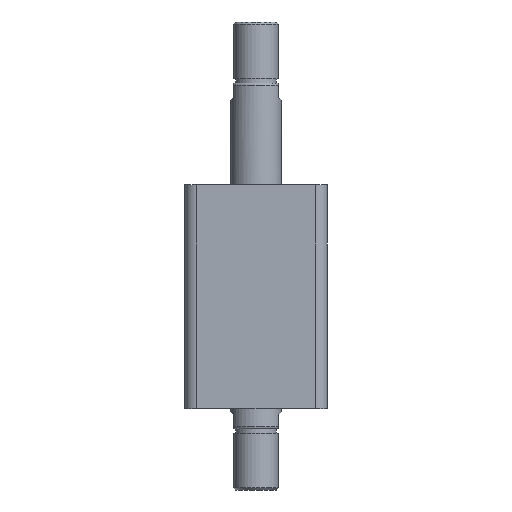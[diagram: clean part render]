
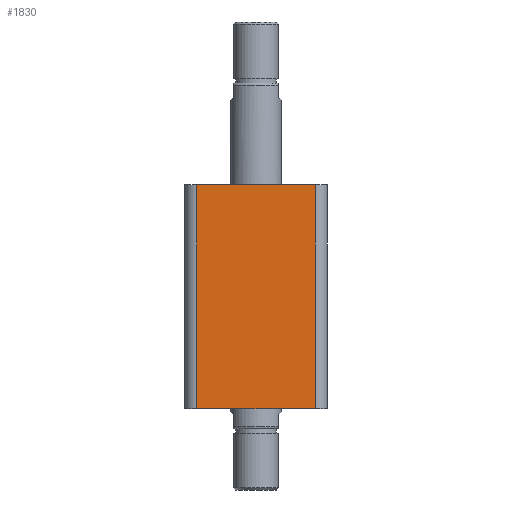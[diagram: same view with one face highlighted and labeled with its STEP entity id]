
A CAD part, front view. The second image highlights one B-rep face of the part: STEP entity #1830.
In plain terms, the highlighted planar face has unit normal (0, -1, 0).
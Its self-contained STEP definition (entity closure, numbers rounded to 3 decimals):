
#38 = CARTESIAN_POINT ( 'NONE',  ( 29., -35., 0. ) ) ;
#47 = CARTESIAN_POINT ( 'NONE',  ( -29., -35., 0. ) ) ;
#256 = CARTESIAN_POINT ( 'NONE',  ( -29., -35., 110. ) ) ;
#315 = VERTEX_POINT ( 'NONE', #256 ) ;
#589 = ORIENTED_EDGE ( 'NONE', *, *, #1423, .T. ) ;
#756 = LINE ( 'NONE', #3244, #761 ) ;
#758 = LINE ( 'NONE', #3246, #763 ) ;
#760 = LINE ( 'NONE', #3251, #765 ) ;
#761 = VECTOR ( 'NONE', #3248, 1000. ) ;
#763 = VECTOR ( 'NONE', #3250, 1000. ) ;
#764 = LINE ( 'NONE', #3252, #767 ) ;
#765 = VECTOR ( 'NONE', #3249, 1000. ) ;
#767 = VECTOR ( 'NONE', #3253, 1000. ) ;
#1006 = AXIS2_PLACEMENT_3D ( 'NONE', #2312, #2316, #2317 ) ;
#1221 = VERTEX_POINT ( 'NONE', #38 ) ;
#1227 = VERTEX_POINT ( 'NONE', #47 ) ;
#1421 = EDGE_CURVE ( 'NONE', #315, #3465, #756, .T. ) ;
#1423 = EDGE_CURVE ( 'NONE', #315, #1227, #758, .T. ) ;
#1426 = EDGE_CURVE ( 'NONE', #1227, #1221, #760, .T. ) ;
#1428 = EDGE_CURVE ( 'NONE', #1221, #3465, #764, .T. ) ;
#1645 = EDGE_LOOP ( 'NONE', ( #1798, #589, #1752, #1791 ) ) ;
#1752 = ORIENTED_EDGE ( 'NONE', *, *, #1426, .T. ) ;
#1791 = ORIENTED_EDGE ( 'NONE', *, *, #1428, .T. ) ;
#1798 = ORIENTED_EDGE ( 'NONE', *, *, #1421, .F. ) ;
#1830 = ADVANCED_FACE ( 'NONE', ( #2499 ), #2314, .F. ) ;
#2312 = CARTESIAN_POINT ( 'NONE',  ( -35., -35., 110. ) ) ;
#2314 = PLANE ( 'NONE',  #1006 ) ;
#2316 = DIRECTION ( 'NONE',  ( 0., 1., 0. ) ) ;
#2317 = DIRECTION ( 'NONE',  ( 0., 0., 1. ) ) ;
#2499 = FACE_OUTER_BOUND ( 'NONE', #1645, .T. ) ;
#2935 = CARTESIAN_POINT ( 'NONE',  ( 29., -35., 110. ) ) ;
#3244 = CARTESIAN_POINT ( 'NONE',  ( -35., -35., 110. ) ) ;
#3246 = CARTESIAN_POINT ( 'NONE',  ( -29., -35., 110. ) ) ;
#3248 = DIRECTION ( 'NONE',  ( 1., 0., 0. ) ) ;
#3249 = DIRECTION ( 'NONE',  ( 1., 0., 0. ) ) ;
#3250 = DIRECTION ( 'NONE',  ( 0., 0., -1. ) ) ;
#3251 = CARTESIAN_POINT ( 'NONE',  ( -35., -35., 0. ) ) ;
#3252 = CARTESIAN_POINT ( 'NONE',  ( 29., -35., 110. ) ) ;
#3253 = DIRECTION ( 'NONE',  ( 0., 0., 1. ) ) ;
#3465 = VERTEX_POINT ( 'NONE', #2935 ) ;
